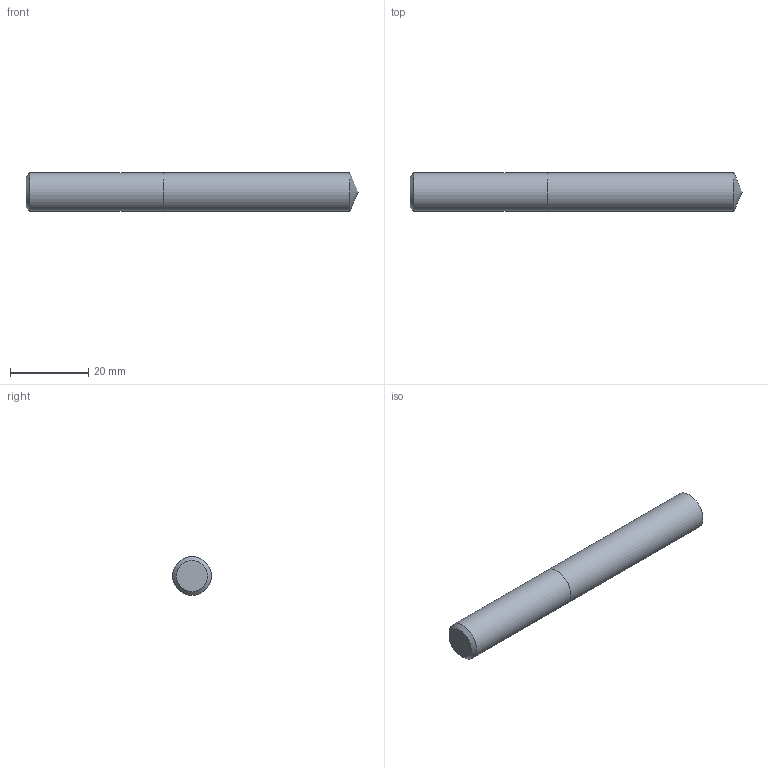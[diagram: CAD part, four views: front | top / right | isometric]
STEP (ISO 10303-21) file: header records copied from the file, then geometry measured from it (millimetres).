
FILE_DESCRIPTION (( 'STEP AP214' ), '1' );
FILE_NAME ('03-2424.STEP', '2022-06-03T07:35:32', ( 'USER' ), ( '' ), 'SwSTEP 2.0', 'SolidWorks 2018', '' );
FILE_SCHEMA (( 'AUTOMOTIVE_DESIGN' ));
Length unit declared in the file: inch
Products named in the file (1): 03-2424
Bounding box: 84.6 x 9.92 x 9.92 mm (x, y, z)
Volume: 6421.2 mm3; surface area: 2869.4 mm2
Topology: 2 solids, 2 shells, 7 faces, 11 edges, 7 vertices
Faces by surface type: plane 3, cylinder 2, cone 2
Full cylindrical faces by diameter (mm): 9.922 x2
Entity records: 214 total; most frequent: DIRECTION 26, CARTESIAN_POINT 18, AXIS2_PLACEMENT_3D 13, ORIENTED_EDGE 10, EDGE_LOOP 10, FACE_OUTER_BOUND 9, UNCERTAINTY_MEASURE_WITH_UNIT 7, LENGTH_MEASURE_WITH_UNIT 7
